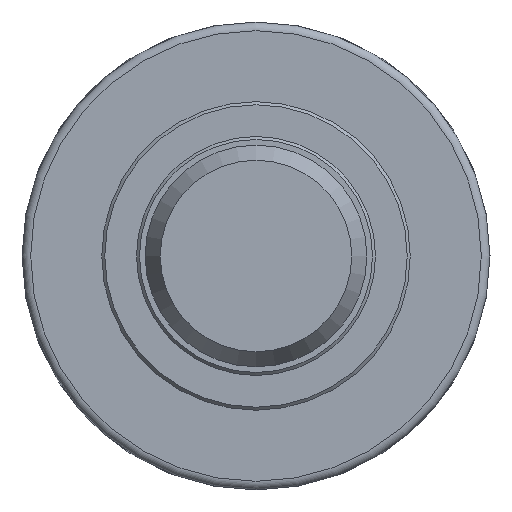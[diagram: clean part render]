
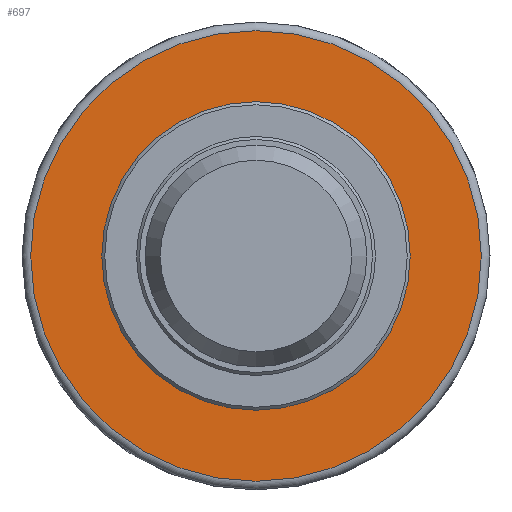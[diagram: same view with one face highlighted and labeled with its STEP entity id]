
A CAD part, left-side view. The second image highlights one B-rep face of the part: STEP entity #697.
In plain terms, the highlighted planar face has unit normal (-1, 0, 0).
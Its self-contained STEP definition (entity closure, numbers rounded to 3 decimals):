
#34=FACE_BOUND('',#142,.T.);
#56=PLANE('',#790);
#93=FACE_OUTER_BOUND('',#141,.T.);
#141=EDGE_LOOP('',(#630));
#142=EDGE_LOOP('',(#631));
#290=CIRCLE('',#789,51.85);
#291=CIRCLE('',#791,34.5);
#357=VERTEX_POINT('',#1658);
#358=VERTEX_POINT('',#1662);
#451=EDGE_CURVE('',#357,#357,#290,.T.);
#452=EDGE_CURVE('',#358,#358,#291,.T.);
#630=ORIENTED_EDGE('',*,*,#451,.F.);
#631=ORIENTED_EDGE('',*,*,#452,.T.);
#697=ADVANCED_FACE('',(#93,#34),#56,.T.);
#789=AXIS2_PLACEMENT_3D('',#1660,#972,#973);
#790=AXIS2_PLACEMENT_3D('',#1661,#974,#975);
#791=AXIS2_PLACEMENT_3D('',#1663,#976,#977);
#972=DIRECTION('center_axis',(1.,0.,0.));
#973=DIRECTION('ref_axis',(0.,-1.,0.));
#974=DIRECTION('center_axis',(-1.,0.,0.));
#975=DIRECTION('ref_axis',(0.,0.,1.));
#976=DIRECTION('center_axis',(1.,0.,0.));
#977=DIRECTION('ref_axis',(0.,1.,0.));
#1658=CARTESIAN_POINT('',(-20.,0.,51.85));
#1660=CARTESIAN_POINT('Origin',(-20.,0.,0.));
#1661=CARTESIAN_POINT('Origin',(-20.,44.175,0.));
#1662=CARTESIAN_POINT('',(-20.,-34.5,0.));
#1663=CARTESIAN_POINT('Origin',(-20.,0.,0.));
